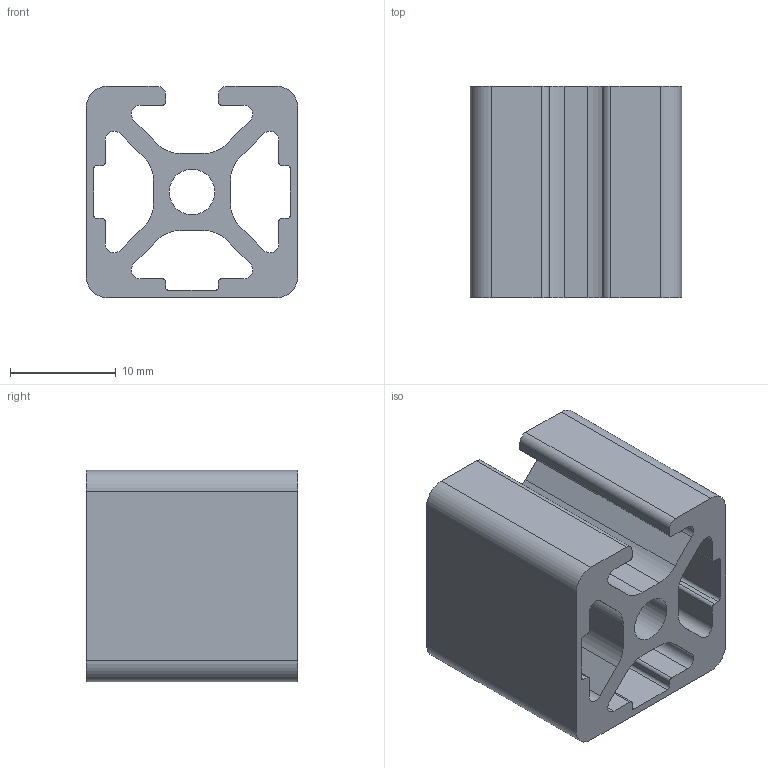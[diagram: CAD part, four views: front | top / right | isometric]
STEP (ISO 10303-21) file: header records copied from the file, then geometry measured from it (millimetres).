
FILE_DESCRIPTION(('STEP AP214'),'1');
FILE_NAME('cctmp_5B9A4277-FEB8-4ADE-97C3-343FF1A2C46F_2023_04_25_09_33_17_0832_13616..stp','2023-04-25T07:33:17',('item Industrietechnik GmbH'),('CADClick - www.CADClick.com'),'Spatial InterOp 3D',' ','unknown authorization');
FILE_SCHEMA(('AUTOMOTIVE_DESIGN'));
Length unit declared in the file: millimetre
Products named in the file (2): item_0046483_Profile 5 20x20 3N_L=20; item_0046483_Profile 5 20x20 3N_L=20_1
Assembly tree (1 placements, depth 2):
  item_0046483_Profile 5 20x20 3N_L=20
    item_0046483_Profile 5 20x20 3N_L=20_1
Bounding box: 20 x 20 x 20 mm (x, y, z)
Volume: 3905.8 mm3; surface area: 4314.6 mm2
Topology: 1 solids, 1 shells, 76 faces, 222 edges, 148 vertices
Faces by surface type: cylinder 38, plane 38
Entity records: 3217 total; most frequent: DIRECTION 454, CARTESIAN_POINT 448, ORIENTED_EDGE 444, EDGE_CURVE 222, AXIS2_PLACEMENT_3D 154, VERTEX_POINT 148, LINE 146, VECTOR 146
